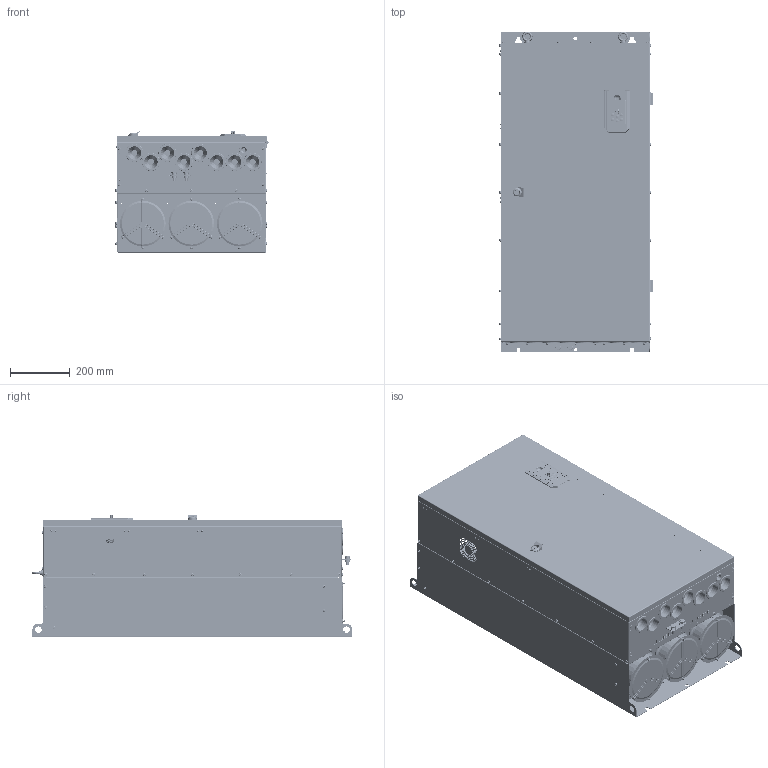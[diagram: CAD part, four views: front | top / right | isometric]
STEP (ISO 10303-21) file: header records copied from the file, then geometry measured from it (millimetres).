
FILE_DESCRIPTION((''),'2;1');
FILE_NAME('D8-DRIVE_REV00_ASM','2022-03-02T10:29:38',('wendong.luo'),(''),'CREO PARAMETRIC BY PTC INC, 2018100','CREO PARAMETRIC BY PTC INC, 2018100','');
FILE_SCHEMA(('CONFIG_CONTROL_DESIGN','GEOMETRIC_VALIDATION_PROPERTIES_MIM'));
Products named in the file (62): D8-MECHANICAL-PART; PRT0001_7; 17251-5YE-2B_1; 17251_ASM_ASM; M0200005; M0202040; M0204014; M0204013; M0104030; M0104033; E0100084; E0400023; E0400008; E0400009; E0400001; E0400011; E0100084_ASM; M0203006; M0203025; M0203032; M0104034; CU_NEW_ASM; M0202034; M0100015; M0202003; M0202014; M12-25; M12-SPRING_FLAT; M12-WASHER; M0202037_ASM; M0202007; M10-25; M10-SPRING_FLAT; M10-WASHER; M0202036_ASM; M0202055; M0202054; P_FHS_5_12_; RIVETING-NUT-4_; M0202002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
Assembly tree (218 placements, depth 4):
  D8-DRIVE_REV00_ASM
    D8-MECHANICAL-PART
    17251_ASM_ASM  x3
      PRT0001_7
      17251-5YE-2B_1
    M0200005  x3
    M0202040  x12
    M0204014  x9
    M0204013
    M0104030
    CU_NEW_ASM
      M0104033
      E0100084_ASM
        E0100084
        E0400023
        E0400008
        E0400009  x2
        E0400001
        E0400011
      M0203006
      M0203025
      M0203032
      M0104034
    FASTEN_D8_ASM
      M0202034  x37
      M0100015  x2
      M0202003  x4
      M0202014  x4
      M0202037_ASM  x14
        M12-25
        M12-SPRING_FLAT
        M12-WASHER
      M0202007  x46
      M0202036_ASM  x2
        M10-25
        M10-SPRING_FLAT
        M10-WASHER
      M0202055  x2
      M0202054  x2
      P_FHS_5_12_  x10
      RIVETING-NUT-4_  x10
      M0202002_ASM  x2
        M0202002
        M3-SPRING_FLAT
        M3-WASHER
    D8-DOOR-ASM_ASM
      M0100085_ASM
        M0100085
      M0104027
      EXTERNAL_KEYPAD_ASM
        M0104016
        M0104018
        M0104017
        M0203007
      M0204019
      M0204017_ASM
        1092130761
        1092130763
        1092130764
        MS705-1B
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Bounding box: 512.2 x 1072.9 x 409 mm (x, y, z)
Volume: 6882775.3 mm3; surface area: 6785563.2 mm2
Topology: 418 solids, 487 shells, 34152 faces, 89461 edges, 57316 vertices
Faces by surface type: plane 16287, cylinder 8392, bspline 4676, extrusion 1880, torus 1425, cone 1164, sphere 328
Entity records: 713472 total; most frequent: CARTESIAN_POINT 194494, ORIENTED_EDGE 86534, DIRECTION 73018, EDGE_CURVE 43332, PRESENTATION_STYLE_ASSIGNMENT 34062, STYLED_ITEM 32424, CURVE_STYLE 31859, VERTEX_POINT 28259
